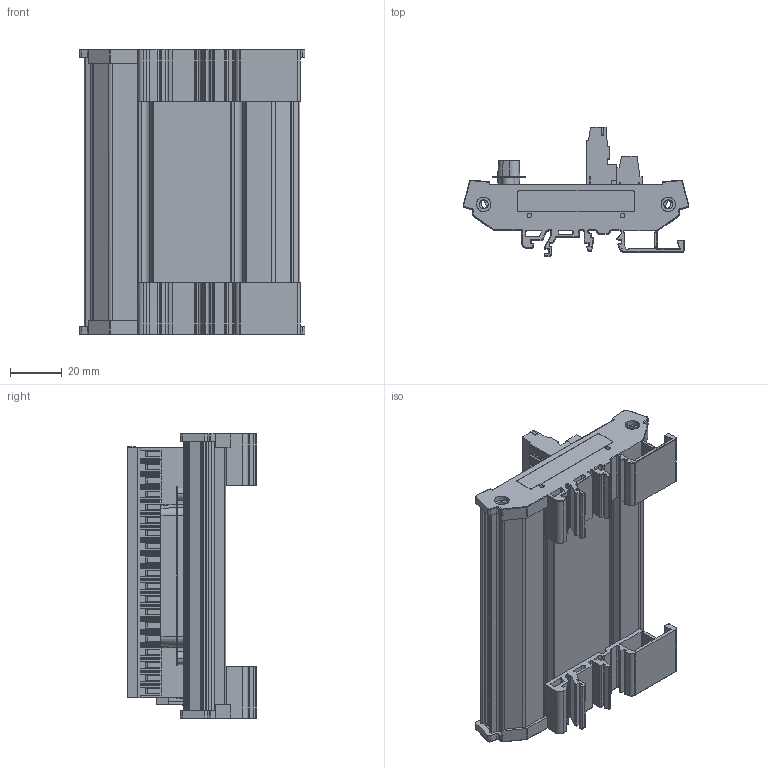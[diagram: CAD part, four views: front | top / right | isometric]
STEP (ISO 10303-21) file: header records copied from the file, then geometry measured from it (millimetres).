
FILE_DESCRIPTION (( 'STEP AP203' ), '1' );
FILE_NAME ('3Dͼֽ P37-16 V1.0.STEP', '2022-09-30T03:24:57', ( 'Microsoft' ), ( 'Microsoft' ), 'SwSTEP 2.0', 'SolidWorks 2020', '' );
FILE_SCHEMA (( 'CONFIG_CONTROL_DESIGN' ));
Length unit declared in the file: millimetre
Products named in the file (6): 3Dͼֽ P37-16 V1.0; P37-16耀郪殤; 5.08-2x19P詢腴弇傷赽釱; P37-16 PCB蚾饜极 V0.1; P37-16 PCB°å; DB37譫眻PCB狟穩
Assembly tree (5 placements, depth 3):
  3Dͼֽ P37-16 V1.0
    P37-16耀郪殤
    P37-16 PCB蚾饜极 V0.1
      P37-16 PCB°å
      DB37譫眻PCB狟穩
      5.08-2x19P詢腴弇傷赽釱
Bounding box: 87 x 49.9 x 110 mm (x, y, z)
Volume: 94818.6 mm3; surface area: 100905.5 mm2
Topology: 43 solids, 43 shells, 3708 faces, 9464 edges, 6085 vertices
Faces by surface type: plane 2311, cylinder 836, bspline 356, cone 166, sphere 37, torus 2
Entity records: 145931 total; most frequent: CARTESIAN_POINT 60609, ORIENTED_EDGE 18692, DIRECTION 15183, EDGE_CURVE 9346, VECTOR 6027, LINE 6027, VERTEX_POINT 6011, AXIS2_PLACEMENT_3D 4578
